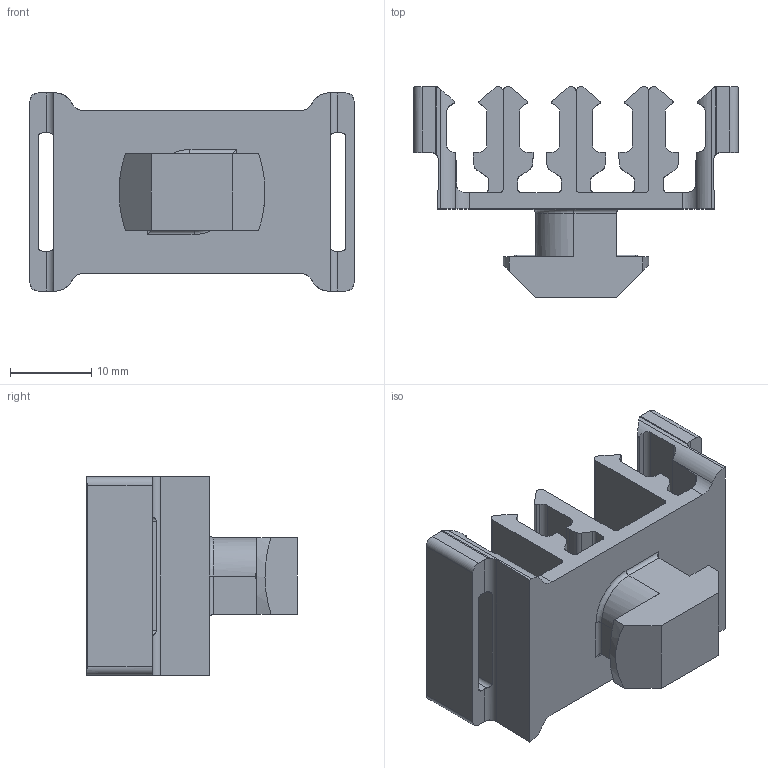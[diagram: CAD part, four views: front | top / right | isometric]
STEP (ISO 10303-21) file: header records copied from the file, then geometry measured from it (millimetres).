
FILE_DESCRIPTION(/* description */ ('STEP AP214'),/* implementation_level */ '2;1');
FILE_NAME(/* name */ '093610N10',/* time_stamp */ '2023-08-29T08:42:24+02:00',/* author */ ('License CC BY-ND 4.0'),/* organization */ ('CADENAS'),/* preprocessor_version */ 'ST-DEVELOPER v19.3',/* originating_system */ 'PARTsolutions',/* authorisation */ ' ');
FILE_SCHEMA (('AUTOMOTIVE_DESIGN {1 0 10303 214 3 1 1}'));
Length unit declared in the file: millimetre
Products named in the file (1): 093610N10
Bounding box: 40 x 26.02 x 24.49 mm (x, y, z)
Volume: 6002.3 mm3; surface area: 6207.4 mm2
Topology: 1 solids, 1 shells, 209 faces, 624 edges, 414 vertices
Faces by surface type: cylinder 104, plane 101, torus 2, sphere 2
Entity records: 7164 total; most frequent: CARTESIAN_POINT 1386, ORIENTED_EDGE 1248, DIRECTION 1204, EDGE_CURVE 624, VERTEX_POINT 414, AXIS2_PLACEMENT_3D 412, LINE 380, VECTOR 380
